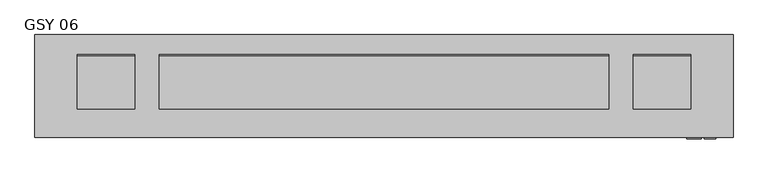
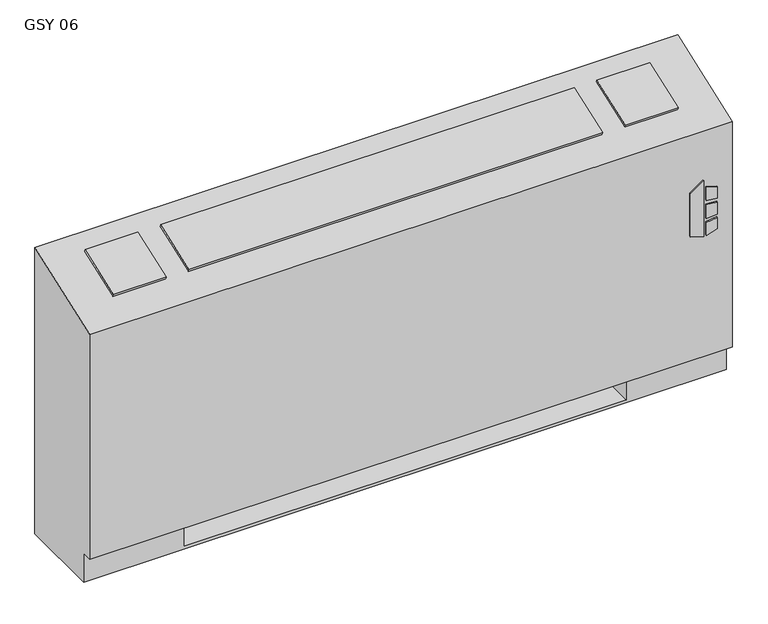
"""IFC4 building model written with IfcOpenShell, lengths in millimetres: proxy geometry, Vertical_Fan_Coil_Unit_-_GSY_-_IEC_-_2-Pipe_TS-FR_LH_2022 : GSY 06."""

from ifc_helpers import new_model, si_unit, point, frame, frame_2d, origin, place, context, project, spatial, polyline, circle_curve, trimmed, segment, composite_curve, outline, extrude, source, transform, mapped, element, save
from ifc_brep_helpers import plane_surface, revolved_surface, advanced_brep


def gsy_06_2d0563a4(model_context):
    return source(origin(), model_context, "Body", "SolidModel", [
        extrude(outline(polyline([(391.6086829, 823.9868862), (381.6606126, 856.1602728), (523.831537, 856.1602728), (500.8095309, 823.9868862), (391.6086829, 823.9868862)])), frame((0.0, 12.7, 0.0), z_axis=(0.0, 1.0, 0.0), x_axis=(0.0, 0.0, 1.0)), (0.0, 0.0, 1.0), 3.175),
        extrude(outline(polyline([(470.6079683, 862.9186058), (467.4055757, 889.0), (496.6344168, 889.0), (504.6988318, 862.9186058), (470.6079683, 862.9186058)])), frame((0.0, 12.7, 0.0), z_axis=(0.0, 1.0, 0.0), x_axis=(0.0, 0.0, 1.0)), (0.0, 0.0, 1.0), 3.175),
        extrude(outline(polyline([(418.7444414, 889.0), (415.0789404, 862.9186058), (381.6606126, 862.9186058), (390.2948498, 889.0), (418.7444414, 889.0)])), frame((0.0, 12.7, 0.0), z_axis=(0.0, 1.0, 0.0), x_axis=(0.0, 0.0, 1.0)), (0.0, 0.0, 1.0), 3.175),
        extrude(outline(polyline([(458.0596028, 889.0), (460.3414292, 862.9186058), (424.4038806, 862.9186058), (427.1451456, 889.0), (458.0596028, 889.0)])), frame((0.0, 12.7, 0.0), z_axis=(0.0, 1.0, 0.0), x_axis=(0.0, 0.0, 1.0)), (0.0, 0.0, 1.0), 3.175),
        extrude(outline(polyline([(0.0, -126.2347031), (0.0, 0.0), (127.0, 0.0), (127.0, -126.2347031), (0.0, -126.2347031)])), frame((-528.193, 200.4217127, 714.3418685), z_axis=(0.0, -0.33964446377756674, 0.9405538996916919), x_axis=(1.0, 0.0, 0.0)), (0.0, 0.0, 1.0), 6.35),
        extrude(outline(polyline([(0.0, -126.2347031), (0.0, 0.0), (996.95, 0.0), (996.95, -126.2347031), (0.0, -126.2347031)])), frame((650.875, 81.6911704, 671.4669504), z_axis=(0.0, -0.3396444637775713, 0.9405538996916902), x_axis=(-1.0, 0.0, 0.0)), (0.0, 0.0, 1.0), 6.35),
        extrude(outline(polyline([(0.0, -126.2347031), (0.0, 0.0), (127.0, 0.0), (127.0, -126.2347031), (0.0, -126.2347031)])), frame((832.993, 81.6911704, 671.4669504), z_axis=(0.0, -0.3396444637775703, 0.9405538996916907), x_axis=(-1.0, 0.0, 0.0)), (0.0, 0.0, 1.0), 6.35),
        extrude(outline(polyline([(685.8, 81.534), (685.8, 223.266), (806.45, 223.266), (806.45, 81.534), (685.8, 81.534)])), frame((0.0, 0.0, 327.025), z_axis=(0.0, 0.0, 1.0), x_axis=(1.0, 0.0, 0.0)), (0.0, 0.0, 1.0), 260.35),
        extrude(outline(composite_curve([segment(trimmed(circle_curve(frame_2d((80.645, 397.002)), 7.9375), [point((80.645, 404.9395))], [point((80.645, 389.0645))], False, "CARTESIAN"), True, "CONTINUOUS"), segment(trimmed(circle_curve(frame_2d((80.645, 397.002)), 7.9375), [point((80.645, 389.0645))], [point((80.645, 404.9395))], False, "CARTESIAN"), True, "CONTINUOUS")], self_intersect=False)), frame((-431.8, 0.0, 0.0), z_axis=(1.0, 0.0, 0.0), x_axis=(0.0, 1.0, 0.0)), (0.0, 0.0, 1.0), 50.8),
        extrude(outline(composite_curve([segment(trimmed(circle_curve(frame_2d((156.8958, 535.8892)), 7.9375), [point((156.8958, 543.8267))], [point((156.8958, 527.9517))], False, "CARTESIAN"), True, "CONTINUOUS"), segment(trimmed(circle_curve(frame_2d((156.8958, 535.8892)), 7.9375), [point((156.8958, 527.9517))], [point((156.8958, 543.8267))], False, "CARTESIAN"), True, "CONTINUOUS")], self_intersect=False)), frame((-431.8, 0.0, 0.0), z_axis=(1.0, 0.0, 0.0), x_axis=(0.0, 1.0, 0.0)), (0.0, 0.0, 1.0), 50.8),
        advanced_brep(
        [(-622.3, 244.475, 0.0), (927.1, 244.475, 0.0), (927.1, 41.275, 0.0), (-622.3, 41.275, 0.0), (-622.3, 244.475, 730.25), (927.1, 244.475, 730.25), (685.8, 244.475, 73.025), (914.4, 244.475, 73.025), (914.4, 244.475, 654.05), (685.8, 244.475, 654.05), (685.8, 244.475, 414.8650565), (714.375, 244.475, 414.8650565), (714.375, 244.475, 385.2349435), (685.8, 244.475, 385.2349435), (685.8, 244.475, 287.3375), (714.375, 244.475, 287.3375), (714.375, 244.475, 258.7625), (685.8, 244.475, 258.7625), (685.8, 244.475, 141.2875), (714.375, 244.475, 141.2875), (714.375, 244.475, 112.7125), (685.8, 244.475, 112.7125), (-381.0, 244.475, 654.05), (-609.6, 244.475, 654.05), (-609.6, 244.475, 73.025), (-381.0, 244.475, 73.025), (-381.0, 244.475, 112.7125), (-409.575, 244.475, 112.7125), (-409.575, 244.475, 141.2875), (-381.0, 244.475, 141.2875), (-381.0, 244.475, 258.7625), (-409.575, 244.475, 258.7625), (-409.575, 244.475, 287.3375), (-381.0, 244.475, 287.3375), (-381.0, 244.475, 385.2349435), (-409.575, 244.475, 385.2349435), (-409.575, 244.475, 414.8650565), (-381.0, 244.475, 414.8650565), (704.0626, 244.475, 127.0), (692.9374, 244.475, 127.0), (704.0626, 244.475, 400.05), (692.9374, 244.475, 400.05), (704.0626, 244.475, 273.05), (692.9374, 244.475, 273.05), (-388.1374, 244.475, 127.0), (-399.2626, 244.475, 127.0), (-388.1374, 244.475, 273.05), (-399.2626, 244.475, 273.05), (-388.1374, 244.475, 400.05), (-399.2626, 244.475, 400.05), (-622.3, 41.275, 73.025), (-622.3, 15.875, 73.025), (-622.3, 15.875, 647.7), (927.1, 15.875, 73.025), (927.1, 15.875, 647.7), (927.1, 41.275, 73.025), (-381.0, 41.275, 73.025), (-381.0, 225.425, 73.025), (685.8, 225.425, 73.025), (685.8, 41.275, 73.025), (685.8, 41.275, 6.35), (-381.0, 41.275, 6.35), (685.8, 41.275, 654.05), (914.4, 41.275, 654.05), (914.4, 41.275, 73.025), (685.8, 41.275, 73.025), (-381.0, 41.275, 654.05), (-381.0, 41.275, 73.025), (-609.6, 41.275, 73.025), (-609.6, 41.275, 654.05), (685.8, 225.425, 73.025), (685.8, 238.125, 112.7125), (685.8, 238.125, 141.2875), (685.8, 238.125, 258.7625), (685.8, 238.125, 287.3375), (685.8, 238.125, 385.2349435), (685.8, 238.125, 414.8650565), (-381.0, 225.425, 73.025), (-381.0, 238.125, 414.8650565), (-381.0, 238.125, 385.2349435), (-381.0, 238.125, 287.3375), (-381.0, 238.125, 258.7625), (-381.0, 238.125, 141.2875), (-381.0, 238.125, 112.7125), (-381.0, 225.425, 6.35), (685.8, 225.425, 6.35), (714.375, 238.125, 112.7125), (714.375, 238.125, 141.2875), (692.9374, 238.125, 127.0), (704.0626, 238.125, 127.0), (714.375, 238.125, 258.7625), (714.375, 238.125, 287.3375), (692.9374, 238.125, 273.05), (704.0626, 238.125, 273.05), (714.375, 238.125, 385.2349435), (714.375, 238.125, 414.8650565), (692.9374, 238.125, 400.05), (704.0626, 238.125, 400.05), (-409.575, 238.125, 141.2875), (-409.575, 238.125, 112.7125), (-399.2626, 238.125, 127.0), (-388.1374, 238.125, 127.0), (-409.575, 238.125, 287.3375), (-409.575, 238.125, 258.7625), (-399.2626, 238.125, 273.05), (-388.1374, 238.125, 273.05), (-409.575, 238.125, 414.8650565), (-409.575, 238.125, 385.2349435), (-399.2626, 238.125, 400.05), (-388.1374, 238.125, 400.05)],
        [
            (0, 1),
            (1, 2),
            (2, 3),
            (3, 0),
            (0, 4),
            (4, 5),
            (5, 1),
            (6, 7),
            (7, 8),
            (8, 9),
            (9, 10),
            (10, 11),
            (11, 12),
            (12, 13),
            (13, 14),
            (14, 15),
            (15, 16),
            (16, 17),
            (17, 18),
            (18, 19),
            (19, 20),
            (20, 21),
            (21, 6),
            (22, 23),
            (23, 24),
            (24, 25),
            (25, 26),
            (26, 27),
            (27, 28),
            (28, 29),
            (29, 30),
            (30, 31),
            (31, 32),
            (32, 33),
            (33, 34),
            (34, 35),
            (35, 36),
            (36, 37),
            (37, 22),
            (38, 39, circle_curve(frame((698.5, 244.475, 127.0), z_axis=(0.0, -1.0, 0.0), x_axis=(-1.0, 0.0, 0.0)), 5.5626)),
            (39, 38, circle_curve(frame((698.5, 244.475, 127.0), z_axis=(0.0, -1.0, 0.0), x_axis=(-1.0, 0.0, 0.0)), 5.5626)),
            (40, 41, circle_curve(frame((698.5, 244.475, 400.05), z_axis=(0.0, -1.0, 0.0), x_axis=(-1.0, 0.0, 0.0)), 5.5626)),
            (41, 40, circle_curve(frame((698.5, 244.475, 400.05), z_axis=(0.0, -1.0, 0.0), x_axis=(-1.0, 0.0, 0.0)), 5.5626)),
            (42, 43, circle_curve(frame((698.5, 244.475, 273.05), z_axis=(0.0, -1.0, 0.0), x_axis=(-1.0, 0.0, 0.0)), 5.5626)),
            (43, 42, circle_curve(frame((698.5, 244.475, 273.05), z_axis=(0.0, -1.0, 0.0), x_axis=(-1.0, 0.0, 0.0)), 5.5626)),
            (44, 45, circle_curve(frame((-393.7, 244.475, 127.0), z_axis=(0.0, -1.0, 0.0), x_axis=(-1.0, 0.0, 0.0)), 5.5626)),
            (45, 44, circle_curve(frame((-393.7, 244.475, 127.0), z_axis=(0.0, -1.0, 0.0), x_axis=(-1.0, 0.0, 0.0)), 5.5626)),
            (46, 47, circle_curve(frame((-393.7, 244.475, 273.05), z_axis=(0.0, -1.0, 0.0), x_axis=(-1.0, 0.0, 0.0)), 5.5626)),
            (47, 46, circle_curve(frame((-393.7, 244.475, 273.05), z_axis=(0.0, -1.0, 0.0), x_axis=(-1.0, 0.0, 0.0)), 5.5626)),
            (48, 49, circle_curve(frame((-393.7, 244.475, 400.05), z_axis=(0.0, -1.0, 0.0), x_axis=(-1.0, 0.0, 0.0)), 5.5626)),
            (49, 48, circle_curve(frame((-393.7, 244.475, 400.05), z_axis=(0.0, -1.0, 0.0), x_axis=(-1.0, 0.0, 0.0)), 5.5626)),
            (3, 50),
            (50, 51),
            (51, 52),
            (52, 4),
            (51, 53),
            (53, 54),
            (54, 52),
            (5, 54),
            (53, 55),
            (55, 2),
            (50, 56),
            (56, 57),
            (57, 58),
            (58, 59),
            (59, 55),
            (59, 60),
            (60, 61),
            (61, 56),
            (62, 63),
            (63, 64),
            (64, 65),
            (65, 62),
            (66, 67),
            (67, 68),
            (68, 69),
            (69, 66),
            (65, 70),
            (70, 6),
            (21, 71),
            (71, 72),
            (72, 18),
            (17, 73),
            (73, 74),
            (74, 14),
            (13, 75),
            (75, 76),
            (76, 10),
            (9, 62),
            (64, 7),
            (63, 8),
            (69, 23),
            (22, 66),
            (68, 24),
            (67, 77),
            (77, 25),
            (37, 78),
            (78, 79),
            (79, 34),
            (33, 80),
            (80, 81),
            (81, 30),
            (29, 82),
            (82, 83),
            (83, 26),
            (57, 84),
            (84, 85),
            (85, 58),
            (85, 60),
            (84, 61),
            (71, 86),
            (86, 87),
            (87, 72),
            (88, 89, circle_curve(frame((698.5, 238.125, 127.0), z_axis=(0.0, 1.0, 0.0), x_axis=(-1.0, 0.0, 0.0)), 5.5626)),
            (89, 88, circle_curve(frame((698.5, 238.125, 127.0), z_axis=(0.0, 1.0, 0.0), x_axis=(-1.0, 0.0, 0.0)), 5.5626)),
            (73, 90),
            (90, 91),
            (91, 74),
            (92, 93, circle_curve(frame((698.5, 238.125, 273.05), z_axis=(0.0, 1.0, 0.0), x_axis=(-1.0, 0.0, 0.0)), 5.5626)),
            (93, 92, circle_curve(frame((698.5, 238.125, 273.05), z_axis=(0.0, 1.0, 0.0), x_axis=(-1.0, 0.0, 0.0)), 5.5626)),
            (75, 94),
            (94, 95),
            (95, 76),
            (96, 97, circle_curve(frame((698.5, 238.125, 400.05), z_axis=(0.0, 1.0, 0.0), x_axis=(-1.0, 0.0, 0.0)), 5.5626)),
            (97, 96, circle_curve(frame((698.5, 238.125, 400.05), z_axis=(0.0, 1.0, 0.0), x_axis=(-1.0, 0.0, 0.0)), 5.5626)),
            (98, 99),
            (99, 83),
            (82, 98),
            (100, 101, circle_curve(frame((-393.7, 238.125, 127.0), z_axis=(0.0, 1.0, 0.0), x_axis=(-1.0, 0.0, 0.0)), 5.5626)),
            (101, 100, circle_curve(frame((-393.7, 238.125, 127.0), z_axis=(0.0, 1.0, 0.0), x_axis=(-1.0, 0.0, 0.0)), 5.5626)),
            (102, 103),
            (103, 81),
            (80, 102),
            (104, 105, circle_curve(frame((-393.7, 238.125, 273.05), z_axis=(0.0, 1.0, 0.0), x_axis=(-1.0, 0.0, 0.0)), 5.5626)),
            (105, 104, circle_curve(frame((-393.7, 238.125, 273.05), z_axis=(0.0, 1.0, 0.0), x_axis=(-1.0, 0.0, 0.0)), 5.5626)),
            (106, 107),
            (107, 79),
            (78, 106),
            (108, 109, circle_curve(frame((-393.7, 238.125, 400.05), z_axis=(0.0, 1.0, 0.0), x_axis=(-1.0, 0.0, 0.0)), 5.5626)),
            (109, 108, circle_curve(frame((-393.7, 238.125, 400.05), z_axis=(0.0, 1.0, 0.0), x_axis=(-1.0, 0.0, 0.0)), 5.5626)),
            (87, 19),
            (86, 20),
            (91, 15),
            (90, 16),
            (95, 11),
            (94, 12),
            (28, 98),
            (99, 27),
            (32, 102),
            (103, 31),
            (36, 106),
            (107, 35),
            (88, 39),
            (38, 89),
            (96, 41),
            (40, 97),
            (92, 43),
            (42, 93),
            (100, 45),
            (44, 101),
            (104, 47),
            (46, 105),
            (108, 49),
            (48, 109),
        ],
        [
            plane_surface(frame((-622.3, 244.475, 0.0), z_axis=(0.0, 0.0, -1.0), x_axis=(1.0, 0.0, 0.0))),
            plane_surface(frame((927.1, 244.475, 730.25), z_axis=(0.0, 1.0, 0.0), x_axis=(0.0, 0.0, -1.0))),
            plane_surface(frame((-622.3, 244.475, 730.25), z_axis=(-1.0, 0.0, 0.0), x_axis=(0.0, 0.0, -1.0))),
            plane_surface(frame((-622.3, 15.875, 730.25), z_axis=(0.0, -1.0, 0.0), x_axis=(0.0, 0.0, -1.0))),
            plane_surface(frame((927.1, 15.875, 730.25), z_axis=(1.0, 0.0, 0.0), x_axis=(0.0, 0.0, -1.0))),
            plane_surface(frame((-622.3, 15.875, 73.025), z_axis=(0.0, 0.0, -1.0), x_axis=(1.0, 0.0, 0.0))),
            plane_surface(frame((-622.3, 41.275, 73.025), z_axis=(0.0, -1.0, 0.0), x_axis=(1.0, 0.0, 0.0))),
            plane_surface(frame((685.8, 41.275, 654.05), z_axis=(0.0, 1.0, 0.0), x_axis=(0.0, 0.0, -1.0))),
            plane_surface(frame((685.8, 41.275, 654.05), z_axis=(1.0, 0.0, 0.0), x_axis=(0.0, 1.0, 0.0))),
            plane_surface(frame((685.8, 41.275, 73.025), z_axis=(0.0, 0.0, 1.0), x_axis=(0.0, 1.0, 0.0))),
            plane_surface(frame((914.4, 41.275, 73.025), z_axis=(-1.0, 0.0, 0.0), x_axis=(0.0, 1.0, 0.0))),
            plane_surface(frame((914.4, 41.275, 654.05), z_axis=(0.0, 0.0, -1.0), x_axis=(0.0, 1.0, 0.0))),
            plane_surface(frame((-381.0, 41.275, 654.05), z_axis=(0.0, 0.0, -1.0), x_axis=(0.0, 1.0, 0.0))),
            plane_surface(frame((-609.6, 41.275, 654.05), z_axis=(1.0, 0.0, 0.0), x_axis=(0.0, 1.0, 0.0))),
            plane_surface(frame((-609.6, 41.275, 73.025), z_axis=(0.0, 0.0, 1.0), x_axis=(0.0, 1.0, 0.0))),
            plane_surface(frame((-381.0, 41.275, 73.025), z_axis=(-1.0, 0.0, 0.0), x_axis=(0.0, 1.0, 0.0))),
            plane_surface(frame((685.8, 225.425, 73.025), z_axis=(0.0, -1.0, 0.0), x_axis=(0.0, 0.0, -1.0))),
            plane_surface(frame((685.8, 225.425, 73.025), z_axis=(-1.0, 0.0, 0.0), x_axis=(0.0, -1.0, 0.0))),
            plane_surface(frame((685.8, 225.425, 6.35), z_axis=(0.0, 0.0, 1.0), x_axis=(0.0, -1.0, 0.0))),
            plane_surface(frame((-381.0, 225.425, 6.35), z_axis=(1.0, 0.0, 0.0), x_axis=(0.0, -1.0, 0.0))),
            plane_surface(frame((714.375, 238.125, 141.2875), z_axis=(0.0, -1.0, 0.0), x_axis=(-1.0, 0.0, 0.0))),
            plane_surface(frame((685.8, 244.475, 141.2875), z_axis=(0.0, 0.0, 1.0), x_axis=(0.0, -1.0, 0.0))),
            plane_surface(frame((714.375, 244.475, 141.2875), z_axis=(1.0, 0.0, 0.0), x_axis=(0.0, -1.0, 0.0))),
            plane_surface(frame((714.375, 244.475, 112.7125), z_axis=(0.0, 0.0, -1.0), x_axis=(0.0, -1.0, 0.0))),
            plane_surface(frame((685.8, 244.475, 287.3375), z_axis=(0.0, 0.0, 1.0), x_axis=(0.0, -1.0, 0.0))),
            plane_surface(frame((714.375, 244.475, 287.3375), z_axis=(1.0, 0.0, 0.0), x_axis=(0.0, -1.0, 0.0))),
            plane_surface(frame((714.375, 244.475, 258.7625), z_axis=(0.0, 0.0, -1.0), x_axis=(0.0, -1.0, 0.0))),
            plane_surface(frame((685.8, 244.475, 414.8650565), z_axis=(0.0, 0.0, 1.0), x_axis=(0.0, -1.0, 0.0))),
            plane_surface(frame((714.375, 244.475, 414.8650565), z_axis=(1.0, 0.0, 0.0), x_axis=(0.0, -1.0, 0.0))),
            plane_surface(frame((714.375, 244.475, 385.2349435), z_axis=(0.0, 0.0, -1.0), x_axis=(0.0, -1.0, 0.0))),
            plane_surface(frame((-409.575, 244.475, 141.2875), z_axis=(0.0, 0.0, 1.0), x_axis=(0.0, -1.0, 0.0))),
            plane_surface(frame((-381.0, 244.475, 112.7125), z_axis=(0.0, 0.0, -1.0), x_axis=(0.0, -1.0, 0.0))),
            plane_surface(frame((-409.575, 244.475, 112.7125), z_axis=(-1.0, 0.0, 0.0), x_axis=(0.0, -1.0, 0.0))),
            plane_surface(frame((-409.575, 244.475, 287.3375), z_axis=(0.0, 0.0, 1.0), x_axis=(0.0, -1.0, 0.0))),
            plane_surface(frame((-381.0, 244.475, 258.7625), z_axis=(0.0, 0.0, -1.0), x_axis=(0.0, -1.0, 0.0))),
            plane_surface(frame((-409.575, 244.475, 258.7625), z_axis=(-1.0, 0.0, 0.0), x_axis=(0.0, -1.0, 0.0))),
            plane_surface(frame((-409.575, 244.475, 414.8650565), z_axis=(0.0, 0.0, 1.0), x_axis=(0.0, -1.0, 0.0))),
            plane_surface(frame((-381.0, 244.475, 385.2349435), z_axis=(0.0, 0.0, -1.0), x_axis=(0.0, -1.0, 0.0))),
            plane_surface(frame((-409.575, 244.475, 385.2349435), z_axis=(-1.0, 0.0, 0.0), x_axis=(0.0, -1.0, 0.0))),
            revolved_surface(polyline([(692.9374, 238.125, 127.0), (692.9374, 244.475, 127.0)]), (698.5, 244.475, 127.0), (0.0, -1.0, 0.0)),
            revolved_surface(polyline([(692.9374, 238.125, 400.05), (692.9374, 244.475, 400.05)]), (698.5, 244.475, 400.05), (0.0, -1.0, 0.0)),
            revolved_surface(polyline([(692.9374, 238.125, 273.05), (692.9374, 244.475, 273.05)]), (698.5, 244.475, 273.05), (0.0, -1.0, 0.0)),
            revolved_surface(polyline([(-399.26259999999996, 238.125, 127.0), (-399.26259999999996, 244.475, 127.0)]), (-393.7, 244.475, 127.0), (0.0, -1.0, 0.0)),
            revolved_surface(polyline([(-399.26259999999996, 238.125, 273.05), (-399.26259999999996, 244.475, 273.05)]), (-393.7, 244.475, 273.05), (0.0, -1.0, 0.0)),
            revolved_surface(polyline([(-399.26259999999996, 238.125, 400.05), (-399.26259999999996, 244.475, 400.05)]), (-393.7, 244.475, 400.05), (0.0, -1.0, 0.0)),
            plane_surface(frame((-622.3, 244.475, 730.25), z_axis=(0.0, -0.33964446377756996, 0.9405538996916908), x_axis=(1.0, 0.0, 0.0))),
        ],
        [
            (0, [[1, 2, 3, 4]]),
            (1, [[-1, 5, 6, 7], [8, 9, 10, 11, 12, 13, 14, 15, 16, 17, 18, 19, 20, 21, 22, 23], [24, 25, 26, 27, 28, 29, 30, 31, 32, 33, 34, 35, 36, 37, 38, 39], [40, 41], [42, 43], [44, 45], [46, 47], [48, 49], [50, 51]]),
            (2, [[-5, -4, 52, 53, 54, 55]]),
            (3, [[56, 57, 58, -54]]),
            (4, [[-7, 59, -57, 60, 61, -2]]),
            (5, [[-53, 62, 63, 64, 65, 66, -60, -56]]),
            (6, [[-3, -61, -66, 67, 68, 69, -62, -52]]),
            (7, [[70, 71, 72, 73]]),
            (7, [[74, 75, 76, 77]]),
            (8, [[-73, 78, 79, -23, 80, 81, 82, -19, 83, 84, 85, -15, 86, 87, 88, -11, 89]]),
            (9, [[-72, 90, -8, -79, -78]]),
            (10, [[-71, 91, -9, -90]]),
            (11, [[-70, -89, -10, -91]]),
            (12, [[-77, 92, -24, 93]]),
            (13, [[-76, 94, -25, -92]]),
            (14, [[-75, 95, 96, -26, -94]]),
            (15, [[-74, -93, -39, 97, 98, 99, -35, 100, 101, 102, -31, 103, 104, 105, -27, -96, -95]]),
            (16, [[-64, 106, 107, 108]]),
            (17, [[-108, 109, -67, -65]]),
            (18, [[-107, 110, -68, -109]]),
            (19, [[-106, -63, -69, -110]]),
            (20, [[111, 112, 113, -81], [114, 115]]),
            (20, [[116, 117, 118, -84], [119, 120]]),
            (20, [[121, 122, 123, -87], [124, 125]]),
            (20, [[126, 127, -104, 128], [129, 130]]),
            (20, [[131, 132, -101, 133], [134, 135]]),
            (20, [[136, 137, -98, 138], [139, 140]]),
            (21, [[-113, 141, -20, -82]]),
            (22, [[-112, 142, -21, -141]]),
            (23, [[-111, -80, -22, -142]]),
            (24, [[-118, 143, -16, -85]]),
            (25, [[-117, 144, -17, -143]]),
            (26, [[-116, -83, -18, -144]]),
            (27, [[-123, 145, -12, -88]]),
            (28, [[-122, 146, -13, -145]]),
            (29, [[-121, -86, -14, -146]]),
            (30, [[-128, -103, -30, 147]]),
            (31, [[-127, 148, -28, -105]]),
            (32, [[-126, -147, -29, -148]]),
            (33, [[-133, -100, -34, 149]]),
            (34, [[-132, 150, -32, -102]]),
            (35, [[-131, -149, -33, -150]]),
            (36, [[-138, -97, -38, 151]]),
            (37, [[-137, 152, -36, -99]]),
            (38, [[-136, -151, -37, -152]]),
            (39, [[153, -40, 154, -114]]),
            (39, [[-153, -115, -154, -41]]),
            (40, [[155, -42, 156, -124]]),
            (40, [[-155, -125, -156, -43]]),
            (41, [[157, -44, 158, -119]]),
            (41, [[-157, -120, -158, -45]]),
            (42, [[159, -46, 160, -129]]),
            (42, [[-159, -130, -160, -47]]),
            (43, [[161, -48, 162, -134]]),
            (43, [[-161, -135, -162, -49]]),
            (44, [[163, -50, 164, -139]]),
            (44, [[-163, -140, -164, -51]]),
            (45, [[-6, -55, -58, -59]]),
        ],
    ),
    ])


if __name__ == "__main__":
    model = new_model("IFC4")
    model_context = context("Model", 3, world=origin())
    ifc_project = project(units=[si_unit("LENGTHUNIT", "METRE", prefix="MILLI")], contexts=[model_context])
    site = spatial("IfcSite", under=ifc_project)
    building = spatial("IfcBuilding", under=site)
    placement = place(None, origin())
    gsy_06_shape = gsy_06_2d0563a4(model_context)
    element("IfcBuildingElementProxy", 1, Name="Vertical_Fan_Coil_Unit_-_GSY_-_IEC_-_2-Pipe_TS-FR_LH_2022 : GSY 06", ObjectType="Vertical_Fan_Coil_Unit_-_GSY_-_IEC_-_2-Pipe_TS-FR_LH_2022 : GSY 06", at=placement, inside=building, context=model_context, shape_type="MappedRepresentation", body=[
        mapped(gsy_06_shape, transform((0.0, 0.0, 0.0), x_axis=(1.0, 0.0, 0.0), y_axis=(0.0, 1.0, 0.0), z_axis=(0.0, 0.0, 1.0))),
    ])
    save(model, "model.ifc")
